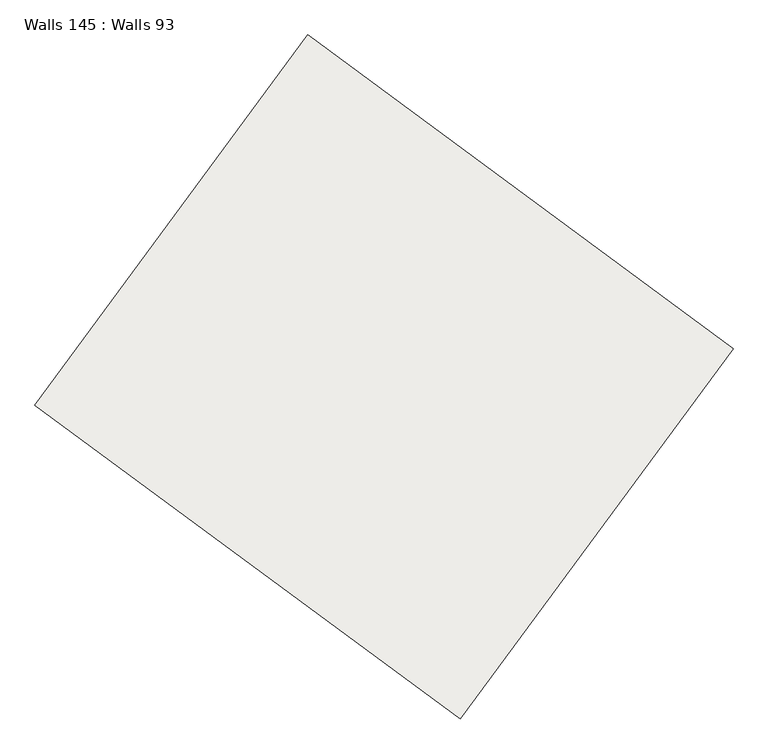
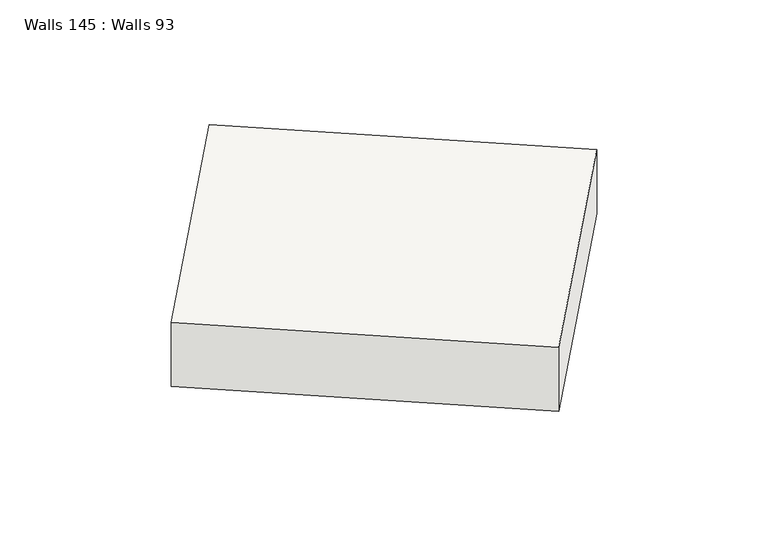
"""IFC4 building model written with IfcOpenShell, lengths in millimetres: slab geometry, Walls 145 : Walls 93."""

from ifc_helpers import new_model, si_unit, frame, origin, place, context, project, spatial, polyline, outline, extrude, source, transform, mapped, element, save


def walls_145_walls_93_45826a18(model_context):
    return source(origin(), model_context, "Body", "SweptSolid", [
        extrude(outline(polyline([(-350.0, 0.0), (350.0, 0.0), (300.0, -3047.6769968), (-400.0, -3047.6769968), (-350.0, 0.0)])), frame((83064.0579659, -65781.8418966, 639910.0), z_axis=(-0.8047049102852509, 0.5936750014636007, 0.0), x_axis=(0.0, 0.0, 1.0)), (0.0, 0.0, 1.0), 3499.9805598),
    ])


if __name__ == "__main__":
    model = new_model("IFC4")
    model_context = context("Model", 3, world=origin())
    ifc_project = project(units=[si_unit("LENGTHUNIT", "METRE", prefix="MILLI")], contexts=[model_context])
    site = spatial("IfcSite", under=ifc_project)
    building = spatial("IfcBuilding", under=site)
    placement = place(None, origin())
    walls_145_walls_93_shape = walls_145_walls_93_45826a18(model_context)
    element("IfcSlab", 1, ObjectType="Walls 145 : Walls 93", at=placement, inside=building, context=model_context, shape_type="MappedRepresentation", body=[
        mapped(walls_145_walls_93_shape, transform((0.0, 0.0, 0.0), x_axis=(1.0, 0.0, 0.0), y_axis=(0.0, 1.0, 0.0), z_axis=(0.0, 0.0, 1.0))),
    ])
    save(model, "model.ifc")
